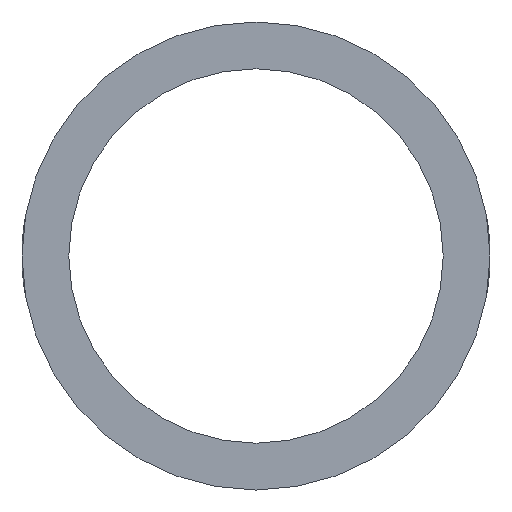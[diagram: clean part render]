
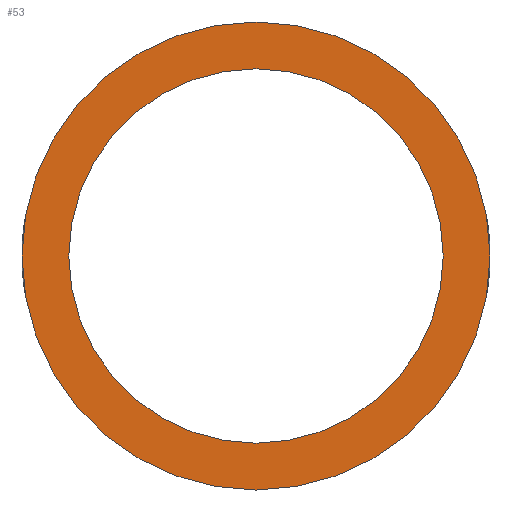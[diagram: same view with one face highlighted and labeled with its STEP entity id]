
A CAD part, left-side view. The second image highlights one B-rep face of the part: STEP entity #53.
In plain terms, the highlighted planar face has unit normal (-1, 0, 0).
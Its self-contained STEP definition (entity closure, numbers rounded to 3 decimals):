
#43=PLANE('',#176);
#46=CIRCLE('',#174,22.5);
#47=CIRCLE('',#175,18.);
#53=ADVANCED_FACE('',(#72,#73),#43,.T.);
#72=FACE_BOUND('',#96,.T.);
#73=FACE_BOUND('',#97,.T.);
#96=EDGE_LOOP('',(#120));
#97=EDGE_LOOP('',(#121));
#120=ORIENTED_EDGE('',*,*,#156,.F.);
#121=ORIENTED_EDGE('',*,*,#157,.F.);
#144=VERTEX_POINT('',#688);
#145=VERTEX_POINT('',#690);
#156=EDGE_CURVE('',#144,#144,#46,.T.);
#157=EDGE_CURVE('',#145,#145,#47,.T.);
#174=AXIS2_PLACEMENT_3D('',#687,#195,#196);
#175=AXIS2_PLACEMENT_3D('',#689,#197,#198);
#176=AXIS2_PLACEMENT_3D('',#691,#199,#200);
#195=DIRECTION('',(1.,0.,0.));
#196=DIRECTION('',(0.,0.,1.));
#197=DIRECTION('',(-1.,0.,0.));
#198=DIRECTION('',(0.,0.,1.));
#199=DIRECTION('',(-1.,0.,0.));
#200=DIRECTION('',(0.,0.,1.));
#687=CARTESIAN_POINT('',(-255.,5470.,1000.));
#688=CARTESIAN_POINT('',(-255.,5470.,1022.5));
#689=CARTESIAN_POINT('',(-255.,5470.,1000.));
#690=CARTESIAN_POINT('',(-255.,5470.,1018.));
#691=CARTESIAN_POINT('',(-255.,5470.,1000.));
